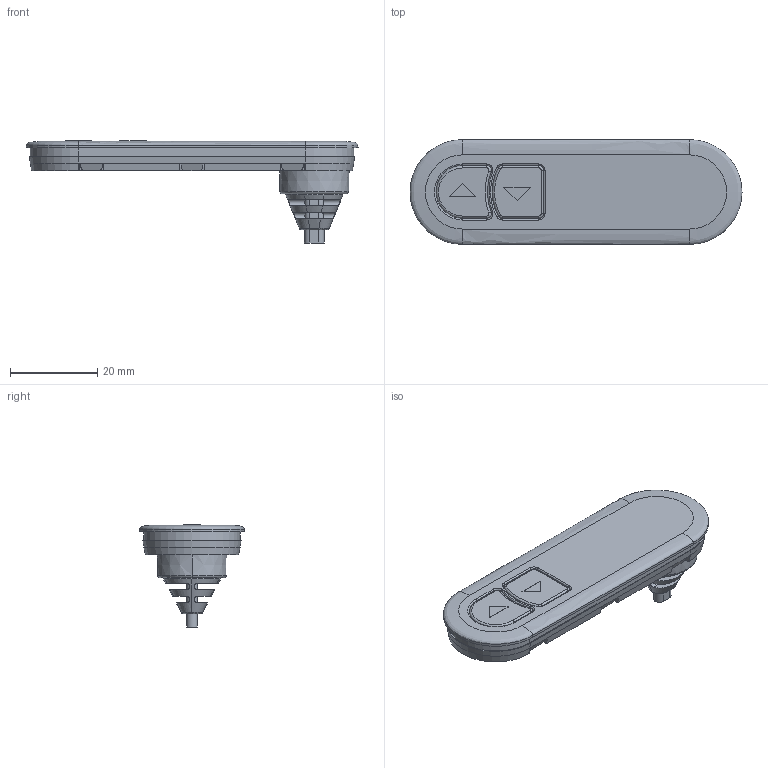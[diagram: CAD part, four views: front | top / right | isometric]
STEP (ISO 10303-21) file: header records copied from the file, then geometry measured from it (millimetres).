
FILE_DESCRIPTION((''),'2;1');
FILE_NAME('ENVELOP_LD2IC','2019-03-23T13:55:56',('TEJ'),(''),'CREO PARAMETRIC BY PTC INC, 2018500','CREO PARAMETRIC BY PTC INC, 2018500','');
FILE_SCHEMA(('AUTOMOTIVE_DESIGN { 1 0 10303 214 1 1 1 1 }'));
Length unit declared in the file: millimetre
Products named in the file (1): ENVELOP_LD2IC
Bounding box: 76 x 24 x 23.35 mm (x, y, z)
Volume: 10647.5 mm3; surface area: 7830.9 mm2
Topology: 1 solids, 3 shells, 298 faces, 763 edges, 482 vertices
Faces by surface type: plane 161, cylinder 66, cone 25, torus 23, bspline 19, revolution 2, extrusion 2
Entity records: 13350 total; most frequent: CARTESIAN_POINT 2934, ORIENTED_EDGE 1526, DIRECTION 1360, PRESENTATION_STYLE_ASSIGNMENT 895, STYLED_ITEM 764, CURVE_STYLE 763, EDGE_CURVE 763, VERTEX_POINT 482
